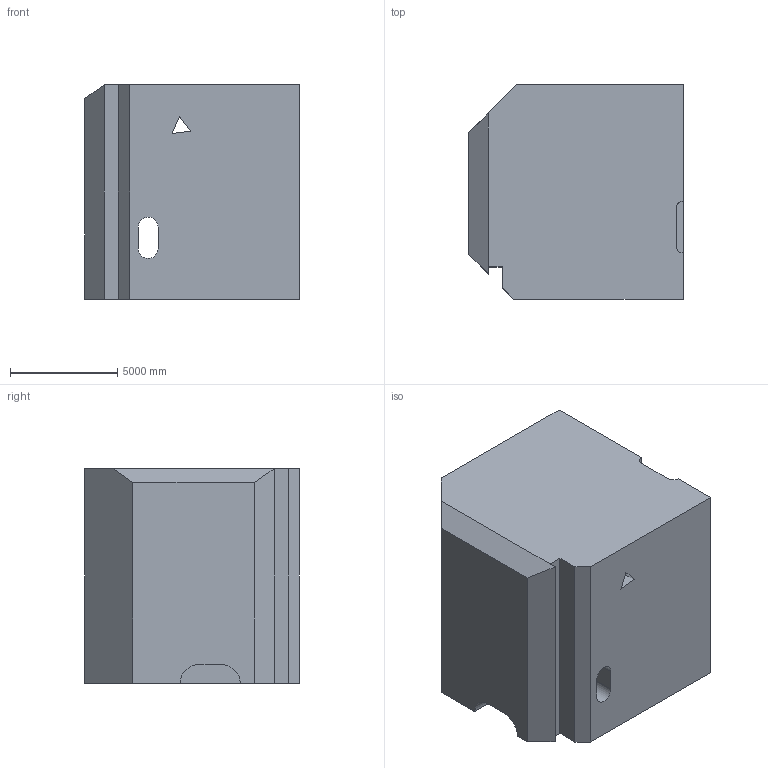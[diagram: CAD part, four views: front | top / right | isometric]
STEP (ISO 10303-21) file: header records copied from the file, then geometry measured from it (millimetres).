
FILE_DESCRIPTION (( 'STEP AP203' ), '1' );
FILE_NAME ('99.STEP', '2022-08-30T14:37:06', ( 'user' ), ( '' ), 'SwSTEP 2.0', 'SolidWorks 2021', '' );
FILE_SCHEMA (( 'CONFIG_CONTROL_DESIGN' ));
Length unit declared in the file: centimetre
Products named in the file (1): 99
Bounding box: 10000 x 10000 x 10000 mm (x, y, z)
Volume: 904443956591.2 mm3; surface area: 666909102.3 mm2
Topology: 1 solids, 1 shells, 38 faces, 104 edges, 69 vertices
Faces by surface type: plane 30, cylinder 8
Entity records: 1281 total; most frequent: CARTESIAN_POINT 212, ORIENTED_EDGE 208, DIRECTION 198, EDGE_CURVE 104, VECTOR 88, LINE 88, VERTEX_POINT 69, AXIS2_PLACEMENT_3D 55
